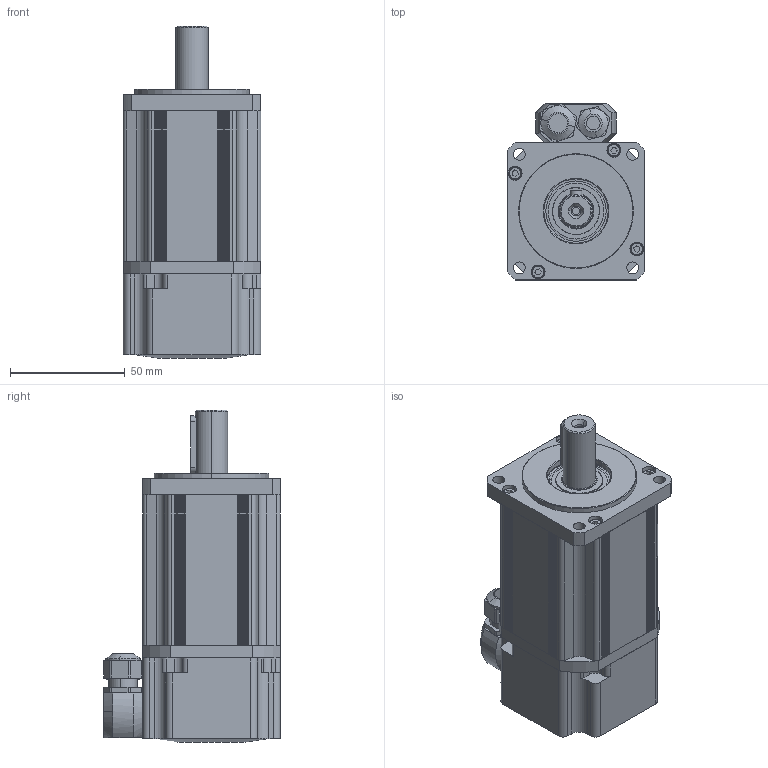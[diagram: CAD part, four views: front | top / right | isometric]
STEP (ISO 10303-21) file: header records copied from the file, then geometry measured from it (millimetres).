
FILE_DESCRIPTION (( 'STEP AP203' ), '1' );
FILE_NAME ('MKBM60_SF-L.STEP', '2016-12-21T16:06:10', ( 'Tecnico motori' ), ( '' ), 'SwSTEP 2.0', 'SolidWorks 2010', '' );
FILE_SCHEMA (( 'CONFIG_CONTROL_DESIGN' ));
Length unit declared in the file: millimetre
Products named in the file (1): MKBM60_SF-L
Bounding box: 60 x 77 x 144.6 mm (x, y, z)
Surface area: 44452.7 mm2 (no closed solid volume)
Topology: 0 solids, 24 shells, 550 faces, 1595 edges, 1077 vertices
Faces by surface type: plane 362, cylinder 127, cone 34, torus 24, bspline 3
Entity records: 18362 total; most frequent: CARTESIAN_POINT 3958, DIRECTION 3092, ORIENTED_EDGE 2498, EDGE_CURVE 1595, VECTOR 1118, LINE 1118, VERTEX_POINT 1077, AXIS2_PLACEMENT_3D 987
